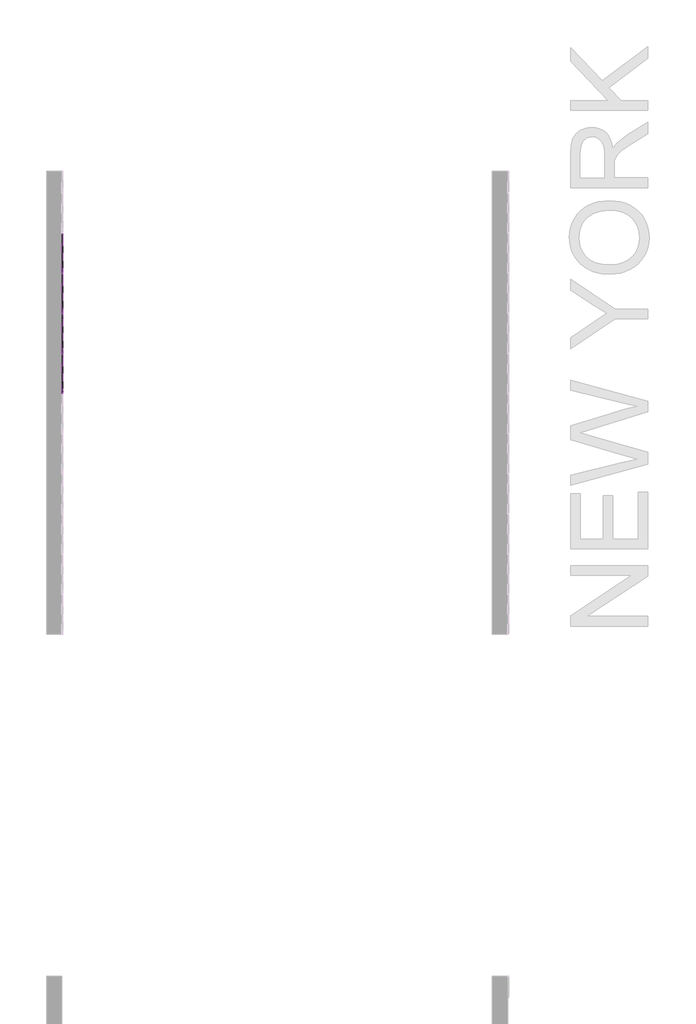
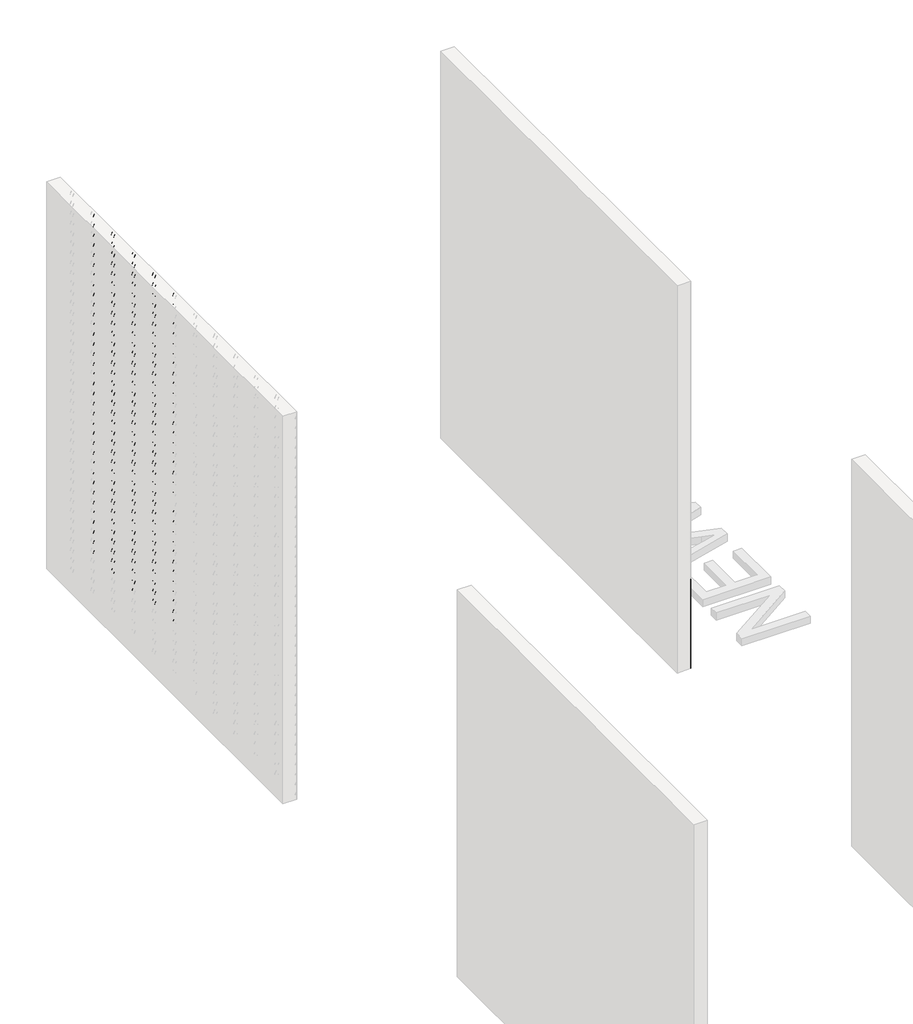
# One storey, part 20 of 45: 147 proxies.
"""IFC4 building model written with IfcOpenShell, lengths in millimetres."""

from ifc_helpers import new_model, si_unit, origin, place, context, project, spatial, transform, mapped, element, save
from components import generic_models_ab0f2c30, generic_models_acd2f2bb

model = new_model("IFC4")

# Units and contexts
model_context = context("Model", 3, world=origin())
ifc_project = project(units=[si_unit("LENGTHUNIT", "METRE", prefix="MILLI")], contexts=[model_context])

# Site, building, storey
site = spatial("IfcSite", under=ifc_project)
building = spatial("IfcBuilding", under=site)
storey = spatial("IfcBuildingStorey", under=building, Name="PORTOBELLO - SHOWROOM", Elevation=0.0)

# Proxies
placement = place(None, origin())
generic_models_shape = generic_models_ab0f2c30(model_context)
element("IfcBuildingElementProxy", 1, Name="PBSHOP - HORIZONTES NEW YORK 6,5X23 : NEW YORK", ObjectType="PBSHOP - HORIZONTES NEW YORK 6,5X23 : NEW YORK", at=placement, inside=storey, context=model_context, shape_type="MappedRepresentation", body=[
    mapped(generic_models_shape, transform((69111.8826867, 5798.0036359, 34.5), x_axis=(0.0, 0.0, 1.0), y_axis=(0.0, -1.0, 0.0), z_axis=(1.0, 0.0, 0.0))),
])
element("IfcBuildingElementProxy", 2, Name="PBSHOP - HORIZONTES NEW YORK 6,5X23 : NEW YORK", ObjectType="PBSHOP - HORIZONTES NEW YORK 6,5X23 : NEW YORK", at=placement, inside=storey, context=model_context, shape_type="MappedRepresentation", body=[
    mapped(generic_models_shape, transform((69111.8826867, 5798.0036359, 103.5), x_axis=(0.0, 0.0, 1.0), y_axis=(0.0, -1.0, 0.0), z_axis=(1.0, 0.0, 0.0))),
])
element("IfcBuildingElementProxy", 3, Name="PBSHOP - HORIZONTES NEW YORK 6,5X23 : NEW YORK", ObjectType="PBSHOP - HORIZONTES NEW YORK 6,5X23 : NEW YORK", at=placement, inside=storey, context=model_context, shape_type="MappedRepresentation", body=[
    mapped(generic_models_shape, transform((69111.8826867, 5798.0036359, 172.5), x_axis=(0.0, 0.0, 1.0), y_axis=(0.0, -1.0, 0.0), z_axis=(1.0, 0.0, 0.0))),
])
element("IfcBuildingElementProxy", 4, Name="PBSHOP - HORIZONTES NEW YORK 6,5X23 : NEW YORK", ObjectType="PBSHOP - HORIZONTES NEW YORK 6,5X23 : NEW YORK", at=placement, inside=storey, context=model_context, shape_type="MappedRepresentation", body=[
    mapped(generic_models_shape, transform((69111.8826867, 5798.0036359, 241.5), x_axis=(0.0, 0.0, 1.0), y_axis=(0.0, -1.0, 0.0), z_axis=(1.0, 0.0, 0.0))),
])
element("IfcBuildingElementProxy", 5, Name="PBSHOP - HORIZONTES NEW YORK 6,5X23 : NEW YORK", ObjectType="PBSHOP - HORIZONTES NEW YORK 6,5X23 : NEW YORK", at=placement, inside=storey, context=model_context, shape_type="MappedRepresentation", body=[
    mapped(generic_models_shape, transform((69111.8826867, 5798.0036359, 310.5), x_axis=(0.0, 0.0, 1.0), y_axis=(0.0, -1.0, 0.0), z_axis=(1.0, 0.0, 0.0))),
])
element("IfcBuildingElementProxy", 6, Name="PBSHOP - HORIZONTES NEW YORK 6,5X23 : NEW YORK", ObjectType="PBSHOP - HORIZONTES NEW YORK 6,5X23 : NEW YORK", at=placement, inside=storey, context=model_context, shape_type="MappedRepresentation", body=[
    mapped(generic_models_shape, transform((69111.8826867, 5798.0036359, 379.5), x_axis=(0.0, 0.0, 1.0), y_axis=(0.0, -1.0, 0.0), z_axis=(1.0, 0.0, 0.0))),
])
element("IfcBuildingElementProxy", 7, Name="PBSHOP - HORIZONTES NEW YORK 6,5X23 : NEW YORK", ObjectType="PBSHOP - HORIZONTES NEW YORK 6,5X23 : NEW YORK", at=placement, inside=storey, context=model_context, shape_type="MappedRepresentation", body=[
    mapped(generic_models_shape, transform((69111.8826867, 5798.0036359, 448.5), x_axis=(0.0, 0.0, 1.0), y_axis=(0.0, -1.0, 0.0), z_axis=(1.0, 0.0, 0.0))),
])
element("IfcBuildingElementProxy", 8, Name="PBSHOP - HORIZONTES NEW YORK 6,5X23 : NEW YORK", ObjectType="PBSHOP - HORIZONTES NEW YORK 6,5X23 : NEW YORK", at=placement, inside=storey, context=model_context, shape_type="MappedRepresentation", body=[
    mapped(generic_models_shape, transform((69111.8826867, 5798.0036359, 517.5), x_axis=(0.0, 0.0, 1.0), y_axis=(0.0, -1.0, 0.0), z_axis=(1.0, 0.0, 0.0))),
])
element("IfcBuildingElementProxy", 9, Name="PBSHOP - HORIZONTES NEW YORK 6,5X23 : NEW YORK", ObjectType="PBSHOP - HORIZONTES NEW YORK 6,5X23 : NEW YORK", at=placement, inside=storey, context=model_context, shape_type="MappedRepresentation", body=[
    mapped(generic_models_shape, transform((69111.8826867, 5798.0036359, 586.5), x_axis=(0.0, 0.0, 1.0), y_axis=(0.0, -1.0, 0.0), z_axis=(1.0, 0.0, 0.0))),
])
generic_models_2_shape = generic_models_acd2f2bb(model_context)
element("IfcBuildingElementProxy", 10, Name="PBSHOP - HORIZONTES NEW YORK 6,5X23 : NEW YORK DECO", ObjectType="PBSHOP - HORIZONTES NEW YORK 6,5X23 : NEW YORK DECO", at=placement, inside=storey, context=model_context, shape_type="MappedRepresentation", body=[
    mapped(generic_models_2_shape, transform((66511.8826867, 7670.0036359, 310.5), x_axis=(0.0, 0.0, 1.0), y_axis=(0.0, -1.0, 0.0), z_axis=(1.0, 0.0, 0.0))),
])
element("IfcBuildingElementProxy", 11, Name="PBSHOP - HORIZONTES NEW YORK 6,5X23 : NEW YORK DECO", ObjectType="PBSHOP - HORIZONTES NEW YORK 6,5X23 : NEW YORK DECO", at=placement, inside=storey, context=model_context, shape_type="MappedRepresentation", body=[
    mapped(generic_models_2_shape, transform((66511.8826867, 7904.0036359, 310.5), x_axis=(0.0, 0.0, 1.0), y_axis=(0.0, -1.0, 0.0), z_axis=(1.0, 0.0, 0.0))),
])
element("IfcBuildingElementProxy", 12, Name="PBSHOP - HORIZONTES NEW YORK 6,5X23 : NEW YORK DECO", ObjectType="PBSHOP - HORIZONTES NEW YORK 6,5X23 : NEW YORK DECO", at=placement, inside=storey, context=model_context, shape_type="MappedRepresentation", body=[
    mapped(generic_models_2_shape, transform((66511.8826867, 7202.0036359, 379.5), x_axis=(0.0, 0.0, 1.0), y_axis=(0.0, -1.0, 0.0), z_axis=(1.0, 0.0, 0.0))),
])
element("IfcBuildingElementProxy", 13, Name="PBSHOP - HORIZONTES NEW YORK 6,5X23 : NEW YORK DECO", ObjectType="PBSHOP - HORIZONTES NEW YORK 6,5X23 : NEW YORK DECO", at=placement, inside=storey, context=model_context, shape_type="MappedRepresentation", body=[
    mapped(generic_models_2_shape, transform((66511.8826867, 7436.0036359, 379.5), x_axis=(0.0, 0.0, 1.0), y_axis=(0.0, -1.0, 0.0), z_axis=(1.0, 0.0, 0.0))),
])
element("IfcBuildingElementProxy", 14, Name="PBSHOP - HORIZONTES NEW YORK 6,5X23 : NEW YORK DECO", ObjectType="PBSHOP - HORIZONTES NEW YORK 6,5X23 : NEW YORK DECO", at=placement, inside=storey, context=model_context, shape_type="MappedRepresentation", body=[
    mapped(generic_models_2_shape, transform((66511.8826867, 7670.0036359, 379.5), x_axis=(0.0, 0.0, 1.0), y_axis=(0.0, -1.0, 0.0), z_axis=(1.0, 0.0, 0.0))),
])
element("IfcBuildingElementProxy", 15, Name="PBSHOP - HORIZONTES NEW YORK 6,5X23 : NEW YORK DECO", ObjectType="PBSHOP - HORIZONTES NEW YORK 6,5X23 : NEW YORK DECO", at=placement, inside=storey, context=model_context, shape_type="MappedRepresentation", body=[
    mapped(generic_models_2_shape, transform((66511.8826867, 7904.0036359, 379.5), x_axis=(0.0, 0.0, 1.0), y_axis=(0.0, -1.0, 0.0), z_axis=(1.0, 0.0, 0.0))),
])
element("IfcBuildingElementProxy", 16, Name="PBSHOP - HORIZONTES NEW YORK 6,5X23 : NEW YORK DECO", ObjectType="PBSHOP - HORIZONTES NEW YORK 6,5X23 : NEW YORK DECO", at=placement, inside=storey, context=model_context, shape_type="MappedRepresentation", body=[
    mapped(generic_models_2_shape, transform((66511.8826867, 7202.0036359, 448.5), x_axis=(0.0, 0.0, 1.0), y_axis=(0.0, -1.0, 0.0), z_axis=(1.0, 0.0, 0.0))),
])
element("IfcBuildingElementProxy", 17, Name="PBSHOP - HORIZONTES NEW YORK 6,5X23 : NEW YORK DECO", ObjectType="PBSHOP - HORIZONTES NEW YORK 6,5X23 : NEW YORK DECO", at=placement, inside=storey, context=model_context, shape_type="MappedRepresentation", body=[
    mapped(generic_models_2_shape, transform((66511.8826867, 7436.0036359, 448.5), x_axis=(0.0, 0.0, 1.0), y_axis=(0.0, -1.0, 0.0), z_axis=(1.0, 0.0, 0.0))),
])
element("IfcBuildingElementProxy", 18, Name="PBSHOP - HORIZONTES NEW YORK 6,5X23 : NEW YORK DECO", ObjectType="PBSHOP - HORIZONTES NEW YORK 6,5X23 : NEW YORK DECO", at=placement, inside=storey, context=model_context, shape_type="MappedRepresentation", body=[
    mapped(generic_models_2_shape, transform((66511.8826867, 7670.0036359, 448.5), x_axis=(0.0, 0.0, 1.0), y_axis=(0.0, -1.0, 0.0), z_axis=(1.0, 0.0, 0.0))),
])
element("IfcBuildingElementProxy", 19, Name="PBSHOP - HORIZONTES NEW YORK 6,5X23 : NEW YORK DECO", ObjectType="PBSHOP - HORIZONTES NEW YORK 6,5X23 : NEW YORK DECO", at=placement, inside=storey, context=model_context, shape_type="MappedRepresentation", body=[
    mapped(generic_models_2_shape, transform((66511.8826867, 7904.0036359, 448.5), x_axis=(0.0, 0.0, 1.0), y_axis=(0.0, -1.0, 0.0), z_axis=(1.0, 0.0, 0.0))),
])
element("IfcBuildingElementProxy", 20, Name="PBSHOP - HORIZONTES NEW YORK 6,5X23 : NEW YORK DECO", ObjectType="PBSHOP - HORIZONTES NEW YORK 6,5X23 : NEW YORK DECO", at=placement, inside=storey, context=model_context, shape_type="MappedRepresentation", body=[
    mapped(generic_models_2_shape, transform((66511.8826867, 7202.0036359, 517.5), x_axis=(0.0, 0.0, 1.0), y_axis=(0.0, -1.0, 0.0), z_axis=(1.0, 0.0, 0.0))),
])
element("IfcBuildingElementProxy", 21, Name="PBSHOP - HORIZONTES NEW YORK 6,5X23 : NEW YORK DECO", ObjectType="PBSHOP - HORIZONTES NEW YORK 6,5X23 : NEW YORK DECO", at=placement, inside=storey, context=model_context, shape_type="MappedRepresentation", body=[
    mapped(generic_models_2_shape, transform((66511.8826867, 7436.0036359, 517.5), x_axis=(0.0, 0.0, 1.0), y_axis=(0.0, -1.0, 0.0), z_axis=(1.0, 0.0, 0.0))),
])
element("IfcBuildingElementProxy", 22, Name="PBSHOP - HORIZONTES NEW YORK 6,5X23 : NEW YORK DECO", ObjectType="PBSHOP - HORIZONTES NEW YORK 6,5X23 : NEW YORK DECO", at=placement, inside=storey, context=model_context, shape_type="MappedRepresentation", body=[
    mapped(generic_models_2_shape, transform((66511.8826867, 7670.0036359, 517.5), x_axis=(0.0, 0.0, 1.0), y_axis=(0.0, -1.0, 0.0), z_axis=(1.0, 0.0, 0.0))),
])
element("IfcBuildingElementProxy", 23, Name="PBSHOP - HORIZONTES NEW YORK 6,5X23 : NEW YORK DECO", ObjectType="PBSHOP - HORIZONTES NEW YORK 6,5X23 : NEW YORK DECO", at=placement, inside=storey, context=model_context, shape_type="MappedRepresentation", body=[
    mapped(generic_models_2_shape, transform((66511.8826867, 7904.0036359, 517.5), x_axis=(0.0, 0.0, 1.0), y_axis=(0.0, -1.0, 0.0), z_axis=(1.0, 0.0, 0.0))),
])
element("IfcBuildingElementProxy", 24, Name="PBSHOP - HORIZONTES NEW YORK 6,5X23 : NEW YORK DECO", ObjectType="PBSHOP - HORIZONTES NEW YORK 6,5X23 : NEW YORK DECO", at=placement, inside=storey, context=model_context, shape_type="MappedRepresentation", body=[
    mapped(generic_models_2_shape, transform((66511.8826867, 7202.0036359, 586.5), x_axis=(0.0, 0.0, 1.0), y_axis=(0.0, -1.0, 0.0), z_axis=(1.0, 0.0, 0.0))),
])
element("IfcBuildingElementProxy", 25, Name="PBSHOP - HORIZONTES NEW YORK 6,5X23 : NEW YORK DECO", ObjectType="PBSHOP - HORIZONTES NEW YORK 6,5X23 : NEW YORK DECO", at=placement, inside=storey, context=model_context, shape_type="MappedRepresentation", body=[
    mapped(generic_models_2_shape, transform((66511.8826867, 7436.0036359, 586.5), x_axis=(0.0, 0.0, 1.0), y_axis=(0.0, -1.0, 0.0), z_axis=(1.0, 0.0, 0.0))),
])
element("IfcBuildingElementProxy", 26, Name="PBSHOP - HORIZONTES NEW YORK 6,5X23 : NEW YORK DECO", ObjectType="PBSHOP - HORIZONTES NEW YORK 6,5X23 : NEW YORK DECO", at=placement, inside=storey, context=model_context, shape_type="MappedRepresentation", body=[
    mapped(generic_models_2_shape, transform((66511.8826867, 7670.0036359, 586.5), x_axis=(0.0, 0.0, 1.0), y_axis=(0.0, -1.0, 0.0), z_axis=(1.0, 0.0, 0.0))),
])
element("IfcBuildingElementProxy", 27, Name="PBSHOP - HORIZONTES NEW YORK 6,5X23 : NEW YORK DECO", ObjectType="PBSHOP - HORIZONTES NEW YORK 6,5X23 : NEW YORK DECO", at=placement, inside=storey, context=model_context, shape_type="MappedRepresentation", body=[
    mapped(generic_models_2_shape, transform((66511.8826867, 7904.0036359, 586.5), x_axis=(0.0, 0.0, 1.0), y_axis=(0.0, -1.0, 0.0), z_axis=(1.0, 0.0, 0.0))),
])
element("IfcBuildingElementProxy", 28, Name="PBSHOP - HORIZONTES NEW YORK 6,5X23 : NEW YORK DECO", ObjectType="PBSHOP - HORIZONTES NEW YORK 6,5X23 : NEW YORK DECO", at=placement, inside=storey, context=model_context, shape_type="MappedRepresentation", body=[
    mapped(generic_models_2_shape, transform((66511.8826867, 7202.0036359, 655.5), x_axis=(0.0, 0.0, 1.0), y_axis=(0.0, -1.0, 0.0), z_axis=(1.0, 0.0, 0.0))),
])
element("IfcBuildingElementProxy", 29, Name="PBSHOP - HORIZONTES NEW YORK 6,5X23 : NEW YORK DECO", ObjectType="PBSHOP - HORIZONTES NEW YORK 6,5X23 : NEW YORK DECO", at=placement, inside=storey, context=model_context, shape_type="MappedRepresentation", body=[
    mapped(generic_models_2_shape, transform((66511.8826867, 7436.0036359, 655.5), x_axis=(0.0, 0.0, 1.0), y_axis=(0.0, -1.0, 0.0), z_axis=(1.0, 0.0, 0.0))),
])
element("IfcBuildingElementProxy", 30, Name="PBSHOP - HORIZONTES NEW YORK 6,5X23 : NEW YORK DECO", ObjectType="PBSHOP - HORIZONTES NEW YORK 6,5X23 : NEW YORK DECO", at=placement, inside=storey, context=model_context, shape_type="MappedRepresentation", body=[
    mapped(generic_models_2_shape, transform((66511.8826867, 7670.0036359, 655.5), x_axis=(0.0, 0.0, 1.0), y_axis=(0.0, -1.0, 0.0), z_axis=(1.0, 0.0, 0.0))),
])
element("IfcBuildingElementProxy", 31, Name="PBSHOP - HORIZONTES NEW YORK 6,5X23 : NEW YORK DECO", ObjectType="PBSHOP - HORIZONTES NEW YORK 6,5X23 : NEW YORK DECO", at=placement, inside=storey, context=model_context, shape_type="MappedRepresentation", body=[
    mapped(generic_models_2_shape, transform((66511.8826867, 7904.0036359, 655.5), x_axis=(0.0, 0.0, 1.0), y_axis=(0.0, -1.0, 0.0), z_axis=(1.0, 0.0, 0.0))),
])
element("IfcBuildingElementProxy", 32, Name="PBSHOP - HORIZONTES NEW YORK 6,5X23 : NEW YORK DECO", ObjectType="PBSHOP - HORIZONTES NEW YORK 6,5X23 : NEW YORK DECO", at=placement, inside=storey, context=model_context, shape_type="MappedRepresentation", body=[
    mapped(generic_models_2_shape, transform((66511.8826867, 7202.0036359, 724.5), x_axis=(0.0, 0.0, 1.0), y_axis=(0.0, -1.0, 0.0), z_axis=(1.0, 0.0, 0.0))),
])
element("IfcBuildingElementProxy", 33, Name="PBSHOP - HORIZONTES NEW YORK 6,5X23 : NEW YORK DECO", ObjectType="PBSHOP - HORIZONTES NEW YORK 6,5X23 : NEW YORK DECO", at=placement, inside=storey, context=model_context, shape_type="MappedRepresentation", body=[
    mapped(generic_models_2_shape, transform((66511.8826867, 7436.0036359, 724.5), x_axis=(0.0, 0.0, 1.0), y_axis=(0.0, -1.0, 0.0), z_axis=(1.0, 0.0, 0.0))),
])
element("IfcBuildingElementProxy", 34, Name="PBSHOP - HORIZONTES NEW YORK 6,5X23 : NEW YORK DECO", ObjectType="PBSHOP - HORIZONTES NEW YORK 6,5X23 : NEW YORK DECO", at=placement, inside=storey, context=model_context, shape_type="MappedRepresentation", body=[
    mapped(generic_models_2_shape, transform((66511.8826867, 7670.0036359, 724.5), x_axis=(0.0, 0.0, 1.0), y_axis=(0.0, -1.0, 0.0), z_axis=(1.0, 0.0, 0.0))),
])
element("IfcBuildingElementProxy", 35, Name="PBSHOP - HORIZONTES NEW YORK 6,5X23 : NEW YORK DECO", ObjectType="PBSHOP - HORIZONTES NEW YORK 6,5X23 : NEW YORK DECO", at=placement, inside=storey, context=model_context, shape_type="MappedRepresentation", body=[
    mapped(generic_models_2_shape, transform((66511.8826867, 7904.0036359, 724.5), x_axis=(0.0, 0.0, 1.0), y_axis=(0.0, -1.0, 0.0), z_axis=(1.0, 0.0, 0.0))),
])
element("IfcBuildingElementProxy", 36, Name="PBSHOP - HORIZONTES NEW YORK 6,5X23 : NEW YORK DECO", ObjectType="PBSHOP - HORIZONTES NEW YORK 6,5X23 : NEW YORK DECO", at=placement, inside=storey, context=model_context, shape_type="MappedRepresentation", body=[
    mapped(generic_models_2_shape, transform((66511.8826867, 7202.0036359, 793.5), x_axis=(0.0, 0.0, 1.0), y_axis=(0.0, -1.0, 0.0), z_axis=(1.0, 0.0, 0.0))),
])
element("IfcBuildingElementProxy", 37, Name="PBSHOP - HORIZONTES NEW YORK 6,5X23 : NEW YORK DECO", ObjectType="PBSHOP - HORIZONTES NEW YORK 6,5X23 : NEW YORK DECO", at=placement, inside=storey, context=model_context, shape_type="MappedRepresentation", body=[
    mapped(generic_models_2_shape, transform((66511.8826867, 7436.0036359, 793.5), x_axis=(0.0, 0.0, 1.0), y_axis=(0.0, -1.0, 0.0), z_axis=(1.0, 0.0, 0.0))),
])
element("IfcBuildingElementProxy", 38, Name="PBSHOP - HORIZONTES NEW YORK 6,5X23 : NEW YORK DECO", ObjectType="PBSHOP - HORIZONTES NEW YORK 6,5X23 : NEW YORK DECO", at=placement, inside=storey, context=model_context, shape_type="MappedRepresentation", body=[
    mapped(generic_models_2_shape, transform((66511.8826867, 7670.0036359, 793.5), x_axis=(0.0, 0.0, 1.0), y_axis=(0.0, -1.0, 0.0), z_axis=(1.0, 0.0, 0.0))),
])
element("IfcBuildingElementProxy", 39, Name="PBSHOP - HORIZONTES NEW YORK 6,5X23 : NEW YORK DECO", ObjectType="PBSHOP - HORIZONTES NEW YORK 6,5X23 : NEW YORK DECO", at=placement, inside=storey, context=model_context, shape_type="MappedRepresentation", body=[
    mapped(generic_models_2_shape, transform((66511.8826867, 7904.0036359, 793.5), x_axis=(0.0, 0.0, 1.0), y_axis=(0.0, -1.0, 0.0), z_axis=(1.0, 0.0, 0.0))),
])
element("IfcBuildingElementProxy", 40, Name="PBSHOP - HORIZONTES NEW YORK 6,5X23 : NEW YORK DECO", ObjectType="PBSHOP - HORIZONTES NEW YORK 6,5X23 : NEW YORK DECO", at=placement, inside=storey, context=model_context, shape_type="MappedRepresentation", body=[
    mapped(generic_models_2_shape, transform((66511.8826867, 7202.0036359, 862.5), x_axis=(0.0, 0.0, 1.0), y_axis=(0.0, -1.0, 0.0), z_axis=(1.0, 0.0, 0.0))),
])
element("IfcBuildingElementProxy", 41, Name="PBSHOP - HORIZONTES NEW YORK 6,5X23 : NEW YORK DECO", ObjectType="PBSHOP - HORIZONTES NEW YORK 6,5X23 : NEW YORK DECO", at=placement, inside=storey, context=model_context, shape_type="MappedRepresentation", body=[
    mapped(generic_models_2_shape, transform((66511.8826867, 7436.0036359, 862.5), x_axis=(0.0, 0.0, 1.0), y_axis=(0.0, -1.0, 0.0), z_axis=(1.0, 0.0, 0.0))),
])
element("IfcBuildingElementProxy", 42, Name="PBSHOP - HORIZONTES NEW YORK 6,5X23 : NEW YORK DECO", ObjectType="PBSHOP - HORIZONTES NEW YORK 6,5X23 : NEW YORK DECO", at=placement, inside=storey, context=model_context, shape_type="MappedRepresentation", body=[
    mapped(generic_models_2_shape, transform((66511.8826867, 7670.0036359, 862.5), x_axis=(0.0, 0.0, 1.0), y_axis=(0.0, -1.0, 0.0), z_axis=(1.0, 0.0, 0.0))),
])
element("IfcBuildingElementProxy", 43, Name="PBSHOP - HORIZONTES NEW YORK 6,5X23 : NEW YORK DECO", ObjectType="PBSHOP - HORIZONTES NEW YORK 6,5X23 : NEW YORK DECO", at=placement, inside=storey, context=model_context, shape_type="MappedRepresentation", body=[
    mapped(generic_models_2_shape, transform((66511.8826867, 7904.0036359, 862.5), x_axis=(0.0, 0.0, 1.0), y_axis=(0.0, -1.0, 0.0), z_axis=(1.0, 0.0, 0.0))),
])
element("IfcBuildingElementProxy", 44, Name="PBSHOP - HORIZONTES NEW YORK 6,5X23 : NEW YORK DECO", ObjectType="PBSHOP - HORIZONTES NEW YORK 6,5X23 : NEW YORK DECO", at=placement, inside=storey, context=model_context, shape_type="MappedRepresentation", body=[
    mapped(generic_models_2_shape, transform((66511.8826867, 7202.0036359, 931.5), x_axis=(0.0, 0.0, 1.0), y_axis=(0.0, -1.0, 0.0), z_axis=(1.0, 0.0, 0.0))),
])
element("IfcBuildingElementProxy", 45, Name="PBSHOP - HORIZONTES NEW YORK 6,5X23 : NEW YORK DECO", ObjectType="PBSHOP - HORIZONTES NEW YORK 6,5X23 : NEW YORK DECO", at=placement, inside=storey, context=model_context, shape_type="MappedRepresentation", body=[
    mapped(generic_models_2_shape, transform((66511.8826867, 7436.0036359, 931.5), x_axis=(0.0, 0.0, 1.0), y_axis=(0.0, -1.0, 0.0), z_axis=(1.0, 0.0, 0.0))),
])
element("IfcBuildingElementProxy", 46, Name="PBSHOP - HORIZONTES NEW YORK 6,5X23 : NEW YORK DECO", ObjectType="PBSHOP - HORIZONTES NEW YORK 6,5X23 : NEW YORK DECO", at=placement, inside=storey, context=model_context, shape_type="MappedRepresentation", body=[
    mapped(generic_models_2_shape, transform((66511.8826867, 7670.0036359, 931.5), x_axis=(0.0, 0.0, 1.0), y_axis=(0.0, -1.0, 0.0), z_axis=(1.0, 0.0, 0.0))),
])
element("IfcBuildingElementProxy", 47, Name="PBSHOP - HORIZONTES NEW YORK 6,5X23 : NEW YORK DECO", ObjectType="PBSHOP - HORIZONTES NEW YORK 6,5X23 : NEW YORK DECO", at=placement, inside=storey, context=model_context, shape_type="MappedRepresentation", body=[
    mapped(generic_models_2_shape, transform((66511.8826867, 7904.0036359, 931.5), x_axis=(0.0, 0.0, 1.0), y_axis=(0.0, -1.0, 0.0), z_axis=(1.0, 0.0, 0.0))),
])
element("IfcBuildingElementProxy", 48, Name="PBSHOP - HORIZONTES NEW YORK 6,5X23 : NEW YORK DECO", ObjectType="PBSHOP - HORIZONTES NEW YORK 6,5X23 : NEW YORK DECO", at=placement, inside=storey, context=model_context, shape_type="MappedRepresentation", body=[
    mapped(generic_models_2_shape, transform((66511.8826867, 7202.0036359, 1000.5), x_axis=(0.0, 0.0, 1.0), y_axis=(0.0, -1.0, 0.0), z_axis=(1.0, 0.0, 0.0))),
])
element("IfcBuildingElementProxy", 49, Name="PBSHOP - HORIZONTES NEW YORK 6,5X23 : NEW YORK DECO", ObjectType="PBSHOP - HORIZONTES NEW YORK 6,5X23 : NEW YORK DECO", at=placement, inside=storey, context=model_context, shape_type="MappedRepresentation", body=[
    mapped(generic_models_2_shape, transform((66511.8826867, 7436.0036359, 1000.5), x_axis=(0.0, 0.0, 1.0), y_axis=(0.0, -1.0, 0.0), z_axis=(1.0, 0.0, 0.0))),
])
element("IfcBuildingElementProxy", 50, Name="PBSHOP - HORIZONTES NEW YORK 6,5X23 : NEW YORK DECO", ObjectType="PBSHOP - HORIZONTES NEW YORK 6,5X23 : NEW YORK DECO", at=placement, inside=storey, context=model_context, shape_type="MappedRepresentation", body=[
    mapped(generic_models_2_shape, transform((66511.8826867, 7670.0036359, 1000.5), x_axis=(0.0, 0.0, 1.0), y_axis=(0.0, -1.0, 0.0), z_axis=(1.0, 0.0, 0.0))),
])
element("IfcBuildingElementProxy", 51, Name="PBSHOP - HORIZONTES NEW YORK 6,5X23 : NEW YORK DECO", ObjectType="PBSHOP - HORIZONTES NEW YORK 6,5X23 : NEW YORK DECO", at=placement, inside=storey, context=model_context, shape_type="MappedRepresentation", body=[
    mapped(generic_models_2_shape, transform((66511.8826867, 7904.0036359, 1000.5), x_axis=(0.0, 0.0, 1.0), y_axis=(0.0, -1.0, 0.0), z_axis=(1.0, 0.0, 0.0))),
])
element("IfcBuildingElementProxy", 52, Name="PBSHOP - HORIZONTES NEW YORK 6,5X23 : NEW YORK DECO", ObjectType="PBSHOP - HORIZONTES NEW YORK 6,5X23 : NEW YORK DECO", at=placement, inside=storey, context=model_context, shape_type="MappedRepresentation", body=[
    mapped(generic_models_2_shape, transform((66511.8826867, 7202.0036359, 1069.5), x_axis=(0.0, 0.0, 1.0), y_axis=(0.0, -1.0, 0.0), z_axis=(1.0, 0.0, 0.0))),
])
element("IfcBuildingElementProxy", 53, Name="PBSHOP - HORIZONTES NEW YORK 6,5X23 : NEW YORK DECO", ObjectType="PBSHOP - HORIZONTES NEW YORK 6,5X23 : NEW YORK DECO", at=placement, inside=storey, context=model_context, shape_type="MappedRepresentation", body=[
    mapped(generic_models_2_shape, transform((66511.8826867, 7436.0036359, 1069.5), x_axis=(0.0, 0.0, 1.0), y_axis=(0.0, -1.0, 0.0), z_axis=(1.0, 0.0, 0.0))),
])
element("IfcBuildingElementProxy", 54, Name="PBSHOP - HORIZONTES NEW YORK 6,5X23 : NEW YORK DECO", ObjectType="PBSHOP - HORIZONTES NEW YORK 6,5X23 : NEW YORK DECO", at=placement, inside=storey, context=model_context, shape_type="MappedRepresentation", body=[
    mapped(generic_models_2_shape, transform((66511.8826867, 7670.0036359, 1069.5), x_axis=(0.0, 0.0, 1.0), y_axis=(0.0, -1.0, 0.0), z_axis=(1.0, 0.0, 0.0))),
])
element("IfcBuildingElementProxy", 55, Name="PBSHOP - HORIZONTES NEW YORK 6,5X23 : NEW YORK DECO", ObjectType="PBSHOP - HORIZONTES NEW YORK 6,5X23 : NEW YORK DECO", at=placement, inside=storey, context=model_context, shape_type="MappedRepresentation", body=[
    mapped(generic_models_2_shape, transform((66511.8826867, 7904.0036359, 1069.5), x_axis=(0.0, 0.0, 1.0), y_axis=(0.0, -1.0, 0.0), z_axis=(1.0, 0.0, 0.0))),
])
element("IfcBuildingElementProxy", 56, Name="PBSHOP - HORIZONTES NEW YORK 6,5X23 : NEW YORK DECO", ObjectType="PBSHOP - HORIZONTES NEW YORK 6,5X23 : NEW YORK DECO", at=placement, inside=storey, context=model_context, shape_type="MappedRepresentation", body=[
    mapped(generic_models_2_shape, transform((66511.8826867, 7202.0036359, 1138.5), x_axis=(0.0, 0.0, 1.0), y_axis=(0.0, -1.0, 0.0), z_axis=(1.0, 0.0, 0.0))),
])
element("IfcBuildingElementProxy", 57, Name="PBSHOP - HORIZONTES NEW YORK 6,5X23 : NEW YORK DECO", ObjectType="PBSHOP - HORIZONTES NEW YORK 6,5X23 : NEW YORK DECO", at=placement, inside=storey, context=model_context, shape_type="MappedRepresentation", body=[
    mapped(generic_models_2_shape, transform((66511.8826867, 7436.0036359, 1138.5), x_axis=(0.0, 0.0, 1.0), y_axis=(0.0, -1.0, 0.0), z_axis=(1.0, 0.0, 0.0))),
])
element("IfcBuildingElementProxy", 58, Name="PBSHOP - HORIZONTES NEW YORK 6,5X23 : NEW YORK DECO", ObjectType="PBSHOP - HORIZONTES NEW YORK 6,5X23 : NEW YORK DECO", at=placement, inside=storey, context=model_context, shape_type="MappedRepresentation", body=[
    mapped(generic_models_2_shape, transform((66511.8826867, 7670.0036359, 1138.5), x_axis=(0.0, 0.0, 1.0), y_axis=(0.0, -1.0, 0.0), z_axis=(1.0, 0.0, 0.0))),
])
element("IfcBuildingElementProxy", 59, Name="PBSHOP - HORIZONTES NEW YORK 6,5X23 : NEW YORK DECO", ObjectType="PBSHOP - HORIZONTES NEW YORK 6,5X23 : NEW YORK DECO", at=placement, inside=storey, context=model_context, shape_type="MappedRepresentation", body=[
    mapped(generic_models_2_shape, transform((66511.8826867, 7904.0036359, 1138.5), x_axis=(0.0, 0.0, 1.0), y_axis=(0.0, -1.0, 0.0), z_axis=(1.0, 0.0, 0.0))),
])
element("IfcBuildingElementProxy", 60, Name="PBSHOP - HORIZONTES NEW YORK 6,5X23 : NEW YORK DECO", ObjectType="PBSHOP - HORIZONTES NEW YORK 6,5X23 : NEW YORK DECO", at=placement, inside=storey, context=model_context, shape_type="MappedRepresentation", body=[
    mapped(generic_models_2_shape, transform((66511.8826867, 7202.0036359, 1207.5), x_axis=(0.0, 0.0, 1.0), y_axis=(0.0, -1.0, 0.0), z_axis=(1.0, 0.0, 0.0))),
])
element("IfcBuildingElementProxy", 61, Name="PBSHOP - HORIZONTES NEW YORK 6,5X23 : NEW YORK DECO", ObjectType="PBSHOP - HORIZONTES NEW YORK 6,5X23 : NEW YORK DECO", at=placement, inside=storey, context=model_context, shape_type="MappedRepresentation", body=[
    mapped(generic_models_2_shape, transform((66511.8826867, 7436.0036359, 1207.5), x_axis=(0.0, 0.0, 1.0), y_axis=(0.0, -1.0, 0.0), z_axis=(1.0, 0.0, 0.0))),
])
element("IfcBuildingElementProxy", 62, Name="PBSHOP - HORIZONTES NEW YORK 6,5X23 : NEW YORK DECO", ObjectType="PBSHOP - HORIZONTES NEW YORK 6,5X23 : NEW YORK DECO", at=placement, inside=storey, context=model_context, shape_type="MappedRepresentation", body=[
    mapped(generic_models_2_shape, transform((66511.8826867, 7670.0036359, 1207.5), x_axis=(0.0, 0.0, 1.0), y_axis=(0.0, -1.0, 0.0), z_axis=(1.0, 0.0, 0.0))),
])
element("IfcBuildingElementProxy", 63, Name="PBSHOP - HORIZONTES NEW YORK 6,5X23 : NEW YORK DECO", ObjectType="PBSHOP - HORIZONTES NEW YORK 6,5X23 : NEW YORK DECO", at=placement, inside=storey, context=model_context, shape_type="MappedRepresentation", body=[
    mapped(generic_models_2_shape, transform((66511.8826867, 7904.0036359, 1207.5), x_axis=(0.0, 0.0, 1.0), y_axis=(0.0, -1.0, 0.0), z_axis=(1.0, 0.0, 0.0))),
])
element("IfcBuildingElementProxy", 64, Name="PBSHOP - HORIZONTES NEW YORK 6,5X23 : NEW YORK DECO", ObjectType="PBSHOP - HORIZONTES NEW YORK 6,5X23 : NEW YORK DECO", at=placement, inside=storey, context=model_context, shape_type="MappedRepresentation", body=[
    mapped(generic_models_2_shape, transform((66511.8826867, 7202.0036359, 1276.5), x_axis=(0.0, 0.0, 1.0), y_axis=(0.0, -1.0, 0.0), z_axis=(1.0, 0.0, 0.0))),
])
element("IfcBuildingElementProxy", 65, Name="PBSHOP - HORIZONTES NEW YORK 6,5X23 : NEW YORK DECO", ObjectType="PBSHOP - HORIZONTES NEW YORK 6,5X23 : NEW YORK DECO", at=placement, inside=storey, context=model_context, shape_type="MappedRepresentation", body=[
    mapped(generic_models_2_shape, transform((66511.8826867, 7436.0036359, 1276.5), x_axis=(0.0, 0.0, 1.0), y_axis=(0.0, -1.0, 0.0), z_axis=(1.0, 0.0, 0.0))),
])
element("IfcBuildingElementProxy", 66, Name="PBSHOP - HORIZONTES NEW YORK 6,5X23 : NEW YORK DECO", ObjectType="PBSHOP - HORIZONTES NEW YORK 6,5X23 : NEW YORK DECO", at=placement, inside=storey, context=model_context, shape_type="MappedRepresentation", body=[
    mapped(generic_models_2_shape, transform((66511.8826867, 7670.0036359, 1276.5), x_axis=(0.0, 0.0, 1.0), y_axis=(0.0, -1.0, 0.0), z_axis=(1.0, 0.0, 0.0))),
])
element("IfcBuildingElementProxy", 67, Name="PBSHOP - HORIZONTES NEW YORK 6,5X23 : NEW YORK DECO", ObjectType="PBSHOP - HORIZONTES NEW YORK 6,5X23 : NEW YORK DECO", at=placement, inside=storey, context=model_context, shape_type="MappedRepresentation", body=[
    mapped(generic_models_2_shape, transform((66511.8826867, 7904.0036359, 1276.5), x_axis=(0.0, 0.0, 1.0), y_axis=(0.0, -1.0, 0.0), z_axis=(1.0, 0.0, 0.0))),
])
element("IfcBuildingElementProxy", 68, Name="PBSHOP - HORIZONTES NEW YORK 6,5X23 : NEW YORK DECO", ObjectType="PBSHOP - HORIZONTES NEW YORK 6,5X23 : NEW YORK DECO", at=placement, inside=storey, context=model_context, shape_type="MappedRepresentation", body=[
    mapped(generic_models_2_shape, transform((66511.8826867, 7202.0036359, 1345.5), x_axis=(0.0, 0.0, 1.0), y_axis=(0.0, -1.0, 0.0), z_axis=(1.0, 0.0, 0.0))),
])
element("IfcBuildingElementProxy", 69, Name="PBSHOP - HORIZONTES NEW YORK 6,5X23 : NEW YORK DECO", ObjectType="PBSHOP - HORIZONTES NEW YORK 6,5X23 : NEW YORK DECO", at=placement, inside=storey, context=model_context, shape_type="MappedRepresentation", body=[
    mapped(generic_models_2_shape, transform((66511.8826867, 7436.0036359, 1345.5), x_axis=(0.0, 0.0, 1.0), y_axis=(0.0, -1.0, 0.0), z_axis=(1.0, 0.0, 0.0))),
])
element("IfcBuildingElementProxy", 70, Name="PBSHOP - HORIZONTES NEW YORK 6,5X23 : NEW YORK DECO", ObjectType="PBSHOP - HORIZONTES NEW YORK 6,5X23 : NEW YORK DECO", at=placement, inside=storey, context=model_context, shape_type="MappedRepresentation", body=[
    mapped(generic_models_2_shape, transform((66511.8826867, 7670.0036359, 1345.5), x_axis=(0.0, 0.0, 1.0), y_axis=(0.0, -1.0, 0.0), z_axis=(1.0, 0.0, 0.0))),
])
element("IfcBuildingElementProxy", 71, Name="PBSHOP - HORIZONTES NEW YORK 6,5X23 : NEW YORK DECO", ObjectType="PBSHOP - HORIZONTES NEW YORK 6,5X23 : NEW YORK DECO", at=placement, inside=storey, context=model_context, shape_type="MappedRepresentation", body=[
    mapped(generic_models_2_shape, transform((66511.8826867, 7904.0036359, 1345.5), x_axis=(0.0, 0.0, 1.0), y_axis=(0.0, -1.0, 0.0), z_axis=(1.0, 0.0, 0.0))),
])
element("IfcBuildingElementProxy", 72, Name="PBSHOP - HORIZONTES NEW YORK 6,5X23 : NEW YORK DECO", ObjectType="PBSHOP - HORIZONTES NEW YORK 6,5X23 : NEW YORK DECO", at=placement, inside=storey, context=model_context, shape_type="MappedRepresentation", body=[
    mapped(generic_models_2_shape, transform((66511.8826867, 7202.0036359, 1414.5), x_axis=(0.0, 0.0, 1.0), y_axis=(0.0, -1.0, 0.0), z_axis=(1.0, 0.0, 0.0))),
])
element("IfcBuildingElementProxy", 73, Name="PBSHOP - HORIZONTES NEW YORK 6,5X23 : NEW YORK DECO", ObjectType="PBSHOP - HORIZONTES NEW YORK 6,5X23 : NEW YORK DECO", at=placement, inside=storey, context=model_context, shape_type="MappedRepresentation", body=[
    mapped(generic_models_2_shape, transform((66511.8826867, 7436.0036359, 1414.5), x_axis=(0.0, 0.0, 1.0), y_axis=(0.0, -1.0, 0.0), z_axis=(1.0, 0.0, 0.0))),
])
element("IfcBuildingElementProxy", 74, Name="PBSHOP - HORIZONTES NEW YORK 6,5X23 : NEW YORK DECO", ObjectType="PBSHOP - HORIZONTES NEW YORK 6,5X23 : NEW YORK DECO", at=placement, inside=storey, context=model_context, shape_type="MappedRepresentation", body=[
    mapped(generic_models_2_shape, transform((66511.8826867, 7670.0036359, 1414.5), x_axis=(0.0, 0.0, 1.0), y_axis=(0.0, -1.0, 0.0), z_axis=(1.0, 0.0, 0.0))),
])
element("IfcBuildingElementProxy", 75, Name="PBSHOP - HORIZONTES NEW YORK 6,5X23 : NEW YORK DECO", ObjectType="PBSHOP - HORIZONTES NEW YORK 6,5X23 : NEW YORK DECO", at=placement, inside=storey, context=model_context, shape_type="MappedRepresentation", body=[
    mapped(generic_models_2_shape, transform((66511.8826867, 7904.0036359, 1414.5), x_axis=(0.0, 0.0, 1.0), y_axis=(0.0, -1.0, 0.0), z_axis=(1.0, 0.0, 0.0))),
])
element("IfcBuildingElementProxy", 76, Name="PBSHOP - HORIZONTES NEW YORK 6,5X23 : NEW YORK DECO", ObjectType="PBSHOP - HORIZONTES NEW YORK 6,5X23 : NEW YORK DECO", at=placement, inside=storey, context=model_context, shape_type="MappedRepresentation", body=[
    mapped(generic_models_2_shape, transform((66511.8826867, 7202.0036359, 1483.5), x_axis=(0.0, 0.0, 1.0), y_axis=(0.0, -1.0, 0.0), z_axis=(1.0, 0.0, 0.0))),
])
element("IfcBuildingElementProxy", 77, Name="PBSHOP - HORIZONTES NEW YORK 6,5X23 : NEW YORK DECO", ObjectType="PBSHOP - HORIZONTES NEW YORK 6,5X23 : NEW YORK DECO", at=placement, inside=storey, context=model_context, shape_type="MappedRepresentation", body=[
    mapped(generic_models_2_shape, transform((66511.8826867, 7436.0036359, 1483.5), x_axis=(0.0, 0.0, 1.0), y_axis=(0.0, -1.0, 0.0), z_axis=(1.0, 0.0, 0.0))),
])
element("IfcBuildingElementProxy", 78, Name="PBSHOP - HORIZONTES NEW YORK 6,5X23 : NEW YORK DECO", ObjectType="PBSHOP - HORIZONTES NEW YORK 6,5X23 : NEW YORK DECO", at=placement, inside=storey, context=model_context, shape_type="MappedRepresentation", body=[
    mapped(generic_models_2_shape, transform((66511.8826867, 7670.0036359, 1483.5), x_axis=(0.0, 0.0, 1.0), y_axis=(0.0, -1.0, 0.0), z_axis=(1.0, 0.0, 0.0))),
])
element("IfcBuildingElementProxy", 79, Name="PBSHOP - HORIZONTES NEW YORK 6,5X23 : NEW YORK DECO", ObjectType="PBSHOP - HORIZONTES NEW YORK 6,5X23 : NEW YORK DECO", at=placement, inside=storey, context=model_context, shape_type="MappedRepresentation", body=[
    mapped(generic_models_2_shape, transform((66511.8826867, 7904.0036359, 1483.5), x_axis=(0.0, 0.0, 1.0), y_axis=(0.0, -1.0, 0.0), z_axis=(1.0, 0.0, 0.0))),
])
element("IfcBuildingElementProxy", 80, Name="PBSHOP - HORIZONTES NEW YORK 6,5X23 : NEW YORK DECO", ObjectType="PBSHOP - HORIZONTES NEW YORK 6,5X23 : NEW YORK DECO", at=placement, inside=storey, context=model_context, shape_type="MappedRepresentation", body=[
    mapped(generic_models_2_shape, transform((66511.8826867, 7202.0036359, 1552.5), x_axis=(0.0, 0.0, 1.0), y_axis=(0.0, -1.0, 0.0), z_axis=(1.0, 0.0, 0.0))),
])
element("IfcBuildingElementProxy", 81, Name="PBSHOP - HORIZONTES NEW YORK 6,5X23 : NEW YORK DECO", ObjectType="PBSHOP - HORIZONTES NEW YORK 6,5X23 : NEW YORK DECO", at=placement, inside=storey, context=model_context, shape_type="MappedRepresentation", body=[
    mapped(generic_models_2_shape, transform((66511.8826867, 7436.0036359, 1552.5), x_axis=(0.0, 0.0, 1.0), y_axis=(0.0, -1.0, 0.0), z_axis=(1.0, 0.0, 0.0))),
])
element("IfcBuildingElementProxy", 82, Name="PBSHOP - HORIZONTES NEW YORK 6,5X23 : NEW YORK DECO", ObjectType="PBSHOP - HORIZONTES NEW YORK 6,5X23 : NEW YORK DECO", at=placement, inside=storey, context=model_context, shape_type="MappedRepresentation", body=[
    mapped(generic_models_2_shape, transform((66511.8826867, 7670.0036359, 1552.5), x_axis=(0.0, 0.0, 1.0), y_axis=(0.0, -1.0, 0.0), z_axis=(1.0, 0.0, 0.0))),
])
element("IfcBuildingElementProxy", 83, Name="PBSHOP - HORIZONTES NEW YORK 6,5X23 : NEW YORK DECO", ObjectType="PBSHOP - HORIZONTES NEW YORK 6,5X23 : NEW YORK DECO", at=placement, inside=storey, context=model_context, shape_type="MappedRepresentation", body=[
    mapped(generic_models_2_shape, transform((66511.8826867, 7904.0036359, 1552.5), x_axis=(0.0, 0.0, 1.0), y_axis=(0.0, -1.0, 0.0), z_axis=(1.0, 0.0, 0.0))),
])
element("IfcBuildingElementProxy", 84, Name="PBSHOP - HORIZONTES NEW YORK 6,5X23 : NEW YORK DECO", ObjectType="PBSHOP - HORIZONTES NEW YORK 6,5X23 : NEW YORK DECO", at=placement, inside=storey, context=model_context, shape_type="MappedRepresentation", body=[
    mapped(generic_models_2_shape, transform((66511.8826867, 7202.0036359, 1621.5), x_axis=(0.0, 0.0, 1.0), y_axis=(0.0, -1.0, 0.0), z_axis=(1.0, 0.0, 0.0))),
])
element("IfcBuildingElementProxy", 85, Name="PBSHOP - HORIZONTES NEW YORK 6,5X23 : NEW YORK DECO", ObjectType="PBSHOP - HORIZONTES NEW YORK 6,5X23 : NEW YORK DECO", at=placement, inside=storey, context=model_context, shape_type="MappedRepresentation", body=[
    mapped(generic_models_2_shape, transform((66511.8826867, 7436.0036359, 1621.5), x_axis=(0.0, 0.0, 1.0), y_axis=(0.0, -1.0, 0.0), z_axis=(1.0, 0.0, 0.0))),
])
element("IfcBuildingElementProxy", 86, Name="PBSHOP - HORIZONTES NEW YORK 6,5X23 : NEW YORK DECO", ObjectType="PBSHOP - HORIZONTES NEW YORK 6,5X23 : NEW YORK DECO", at=placement, inside=storey, context=model_context, shape_type="MappedRepresentation", body=[
    mapped(generic_models_2_shape, transform((66511.8826867, 7670.0036359, 1621.5), x_axis=(0.0, 0.0, 1.0), y_axis=(0.0, -1.0, 0.0), z_axis=(1.0, 0.0, 0.0))),
])
element("IfcBuildingElementProxy", 87, Name="PBSHOP - HORIZONTES NEW YORK 6,5X23 : NEW YORK DECO", ObjectType="PBSHOP - HORIZONTES NEW YORK 6,5X23 : NEW YORK DECO", at=placement, inside=storey, context=model_context, shape_type="MappedRepresentation", body=[
    mapped(generic_models_2_shape, transform((66511.8826867, 7904.0036359, 1621.5), x_axis=(0.0, 0.0, 1.0), y_axis=(0.0, -1.0, 0.0), z_axis=(1.0, 0.0, 0.0))),
])
element("IfcBuildingElementProxy", 88, Name="PBSHOP - HORIZONTES NEW YORK 6,5X23 : NEW YORK DECO", ObjectType="PBSHOP - HORIZONTES NEW YORK 6,5X23 : NEW YORK DECO", at=placement, inside=storey, context=model_context, shape_type="MappedRepresentation", body=[
    mapped(generic_models_2_shape, transform((66511.8826867, 7202.0036359, 1690.5), x_axis=(0.0, 0.0, 1.0), y_axis=(0.0, -1.0, 0.0), z_axis=(1.0, 0.0, 0.0))),
])
element("IfcBuildingElementProxy", 89, Name="PBSHOP - HORIZONTES NEW YORK 6,5X23 : NEW YORK DECO", ObjectType="PBSHOP - HORIZONTES NEW YORK 6,5X23 : NEW YORK DECO", at=placement, inside=storey, context=model_context, shape_type="MappedRepresentation", body=[
    mapped(generic_models_2_shape, transform((66511.8826867, 7436.0036359, 1690.5), x_axis=(0.0, 0.0, 1.0), y_axis=(0.0, -1.0, 0.0), z_axis=(1.0, 0.0, 0.0))),
])
element("IfcBuildingElementProxy", 90, Name="PBSHOP - HORIZONTES NEW YORK 6,5X23 : NEW YORK DECO", ObjectType="PBSHOP - HORIZONTES NEW YORK 6,5X23 : NEW YORK DECO", at=placement, inside=storey, context=model_context, shape_type="MappedRepresentation", body=[
    mapped(generic_models_2_shape, transform((66511.8826867, 7670.0036359, 1690.5), x_axis=(0.0, 0.0, 1.0), y_axis=(0.0, -1.0, 0.0), z_axis=(1.0, 0.0, 0.0))),
])
element("IfcBuildingElementProxy", 91, Name="PBSHOP - HORIZONTES NEW YORK 6,5X23 : NEW YORK DECO", ObjectType="PBSHOP - HORIZONTES NEW YORK 6,5X23 : NEW YORK DECO", at=placement, inside=storey, context=model_context, shape_type="MappedRepresentation", body=[
    mapped(generic_models_2_shape, transform((66511.8826867, 7904.0036359, 1690.5), x_axis=(0.0, 0.0, 1.0), y_axis=(0.0, -1.0, 0.0), z_axis=(1.0, 0.0, 0.0))),
])
element("IfcBuildingElementProxy", 92, Name="PBSHOP - HORIZONTES NEW YORK 6,5X23 : NEW YORK DECO", ObjectType="PBSHOP - HORIZONTES NEW YORK 6,5X23 : NEW YORK DECO", at=placement, inside=storey, context=model_context, shape_type="MappedRepresentation", body=[
    mapped(generic_models_2_shape, transform((66511.8826867, 7202.0036359, 1759.5), x_axis=(0.0, 0.0, 1.0), y_axis=(0.0, -1.0, 0.0), z_axis=(1.0, 0.0, 0.0))),
])
element("IfcBuildingElementProxy", 93, Name="PBSHOP - HORIZONTES NEW YORK 6,5X23 : NEW YORK DECO", ObjectType="PBSHOP - HORIZONTES NEW YORK 6,5X23 : NEW YORK DECO", at=placement, inside=storey, context=model_context, shape_type="MappedRepresentation", body=[
    mapped(generic_models_2_shape, transform((66511.8826867, 7436.0036359, 1759.5), x_axis=(0.0, 0.0, 1.0), y_axis=(0.0, -1.0, 0.0), z_axis=(1.0, 0.0, 0.0))),
])
element("IfcBuildingElementProxy", 94, Name="PBSHOP - HORIZONTES NEW YORK 6,5X23 : NEW YORK DECO", ObjectType="PBSHOP - HORIZONTES NEW YORK 6,5X23 : NEW YORK DECO", at=placement, inside=storey, context=model_context, shape_type="MappedRepresentation", body=[
    mapped(generic_models_2_shape, transform((66511.8826867, 7670.0036359, 1759.5), x_axis=(0.0, 0.0, 1.0), y_axis=(0.0, -1.0, 0.0), z_axis=(1.0, 0.0, 0.0))),
])
element("IfcBuildingElementProxy", 95, Name="PBSHOP - HORIZONTES NEW YORK 6,5X23 : NEW YORK DECO", ObjectType="PBSHOP - HORIZONTES NEW YORK 6,5X23 : NEW YORK DECO", at=placement, inside=storey, context=model_context, shape_type="MappedRepresentation", body=[
    mapped(generic_models_2_shape, transform((66511.8826867, 7904.0036359, 1759.5), x_axis=(0.0, 0.0, 1.0), y_axis=(0.0, -1.0, 0.0), z_axis=(1.0, 0.0, 0.0))),
])
element("IfcBuildingElementProxy", 96, Name="PBSHOP - HORIZONTES NEW YORK 6,5X23 : NEW YORK DECO", ObjectType="PBSHOP - HORIZONTES NEW YORK 6,5X23 : NEW YORK DECO", at=placement, inside=storey, context=model_context, shape_type="MappedRepresentation", body=[
    mapped(generic_models_2_shape, transform((66511.8826867, 7202.0036359, 1828.5), x_axis=(0.0, 0.0, 1.0), y_axis=(0.0, -1.0, 0.0), z_axis=(1.0, 0.0, 0.0))),
])
element("IfcBuildingElementProxy", 97, Name="PBSHOP - HORIZONTES NEW YORK 6,5X23 : NEW YORK DECO", ObjectType="PBSHOP - HORIZONTES NEW YORK 6,5X23 : NEW YORK DECO", at=placement, inside=storey, context=model_context, shape_type="MappedRepresentation", body=[
    mapped(generic_models_2_shape, transform((66511.8826867, 7436.0036359, 1828.5), x_axis=(0.0, 0.0, 1.0), y_axis=(0.0, -1.0, 0.0), z_axis=(1.0, 0.0, 0.0))),
])
element("IfcBuildingElementProxy", 98, Name="PBSHOP - HORIZONTES NEW YORK 6,5X23 : NEW YORK DECO", ObjectType="PBSHOP - HORIZONTES NEW YORK 6,5X23 : NEW YORK DECO", at=placement, inside=storey, context=model_context, shape_type="MappedRepresentation", body=[
    mapped(generic_models_2_shape, transform((66511.8826867, 7670.0036359, 1828.5), x_axis=(0.0, 0.0, 1.0), y_axis=(0.0, -1.0, 0.0), z_axis=(1.0, 0.0, 0.0))),
])
element("IfcBuildingElementProxy", 99, Name="PBSHOP - HORIZONTES NEW YORK 6,5X23 : NEW YORK DECO", ObjectType="PBSHOP - HORIZONTES NEW YORK 6,5X23 : NEW YORK DECO", at=placement, inside=storey, context=model_context, shape_type="MappedRepresentation", body=[
    mapped(generic_models_2_shape, transform((66511.8826867, 7904.0036359, 1828.5), x_axis=(0.0, 0.0, 1.0), y_axis=(0.0, -1.0, 0.0), z_axis=(1.0, 0.0, 0.0))),
])
element("IfcBuildingElementProxy", 100, Name="PBSHOP - HORIZONTES NEW YORK 6,5X23 : NEW YORK DECO", ObjectType="PBSHOP - HORIZONTES NEW YORK 6,5X23 : NEW YORK DECO", at=placement, inside=storey, context=model_context, shape_type="MappedRepresentation", body=[
    mapped(generic_models_2_shape, transform((66511.8826867, 7202.0036359, 1897.5), x_axis=(0.0, 0.0, 1.0), y_axis=(0.0, -1.0, 0.0), z_axis=(1.0, 0.0, 0.0))),
])
element("IfcBuildingElementProxy", 101, Name="PBSHOP - HORIZONTES NEW YORK 6,5X23 : NEW YORK DECO", ObjectType="PBSHOP - HORIZONTES NEW YORK 6,5X23 : NEW YORK DECO", at=placement, inside=storey, context=model_context, shape_type="MappedRepresentation", body=[
    mapped(generic_models_2_shape, transform((66511.8826867, 7436.0036359, 1897.5), x_axis=(0.0, 0.0, 1.0), y_axis=(0.0, -1.0, 0.0), z_axis=(1.0, 0.0, 0.0))),
])
element("IfcBuildingElementProxy", 102, Name="PBSHOP - HORIZONTES NEW YORK 6,5X23 : NEW YORK DECO", ObjectType="PBSHOP - HORIZONTES NEW YORK 6,5X23 : NEW YORK DECO", at=placement, inside=storey, context=model_context, shape_type="MappedRepresentation", body=[
    mapped(generic_models_2_shape, transform((66511.8826867, 7670.0036359, 1897.5), x_axis=(0.0, 0.0, 1.0), y_axis=(0.0, -1.0, 0.0), z_axis=(1.0, 0.0, 0.0))),
])
element("IfcBuildingElementProxy", 103, Name="PBSHOP - HORIZONTES NEW YORK 6,5X23 : NEW YORK DECO", ObjectType="PBSHOP - HORIZONTES NEW YORK 6,5X23 : NEW YORK DECO", at=placement, inside=storey, context=model_context, shape_type="MappedRepresentation", body=[
    mapped(generic_models_2_shape, transform((66511.8826867, 7904.0036359, 1897.5), x_axis=(0.0, 0.0, 1.0), y_axis=(0.0, -1.0, 0.0), z_axis=(1.0, 0.0, 0.0))),
])
element("IfcBuildingElementProxy", 104, Name="PBSHOP - HORIZONTES NEW YORK 6,5X23 : NEW YORK DECO", ObjectType="PBSHOP - HORIZONTES NEW YORK 6,5X23 : NEW YORK DECO", at=placement, inside=storey, context=model_context, shape_type="MappedRepresentation", body=[
    mapped(generic_models_2_shape, transform((66511.8826867, 7202.0036359, 1966.5), x_axis=(0.0, 0.0, 1.0), y_axis=(0.0, -1.0, 0.0), z_axis=(1.0, 0.0, 0.0))),
])
element("IfcBuildingElementProxy", 105, Name="PBSHOP - HORIZONTES NEW YORK 6,5X23 : NEW YORK DECO", ObjectType="PBSHOP - HORIZONTES NEW YORK 6,5X23 : NEW YORK DECO", at=placement, inside=storey, context=model_context, shape_type="MappedRepresentation", body=[
    mapped(generic_models_2_shape, transform((66511.8826867, 7436.0036359, 1966.5), x_axis=(0.0, 0.0, 1.0), y_axis=(0.0, -1.0, 0.0), z_axis=(1.0, 0.0, 0.0))),
])
element("IfcBuildingElementProxy", 106, Name="PBSHOP - HORIZONTES NEW YORK 6,5X23 : NEW YORK DECO", ObjectType="PBSHOP - HORIZONTES NEW YORK 6,5X23 : NEW YORK DECO", at=placement, inside=storey, context=model_context, shape_type="MappedRepresentation", body=[
    mapped(generic_models_2_shape, transform((66511.8826867, 7670.0036359, 1966.5), x_axis=(0.0, 0.0, 1.0), y_axis=(0.0, -1.0, 0.0), z_axis=(1.0, 0.0, 0.0))),
])
element("IfcBuildingElementProxy", 107, Name="PBSHOP - HORIZONTES NEW YORK 6,5X23 : NEW YORK DECO", ObjectType="PBSHOP - HORIZONTES NEW YORK 6,5X23 : NEW YORK DECO", at=placement, inside=storey, context=model_context, shape_type="MappedRepresentation", body=[
    mapped(generic_models_2_shape, transform((66511.8826867, 7904.0036359, 1966.5), x_axis=(0.0, 0.0, 1.0), y_axis=(0.0, -1.0, 0.0), z_axis=(1.0, 0.0, 0.0))),
])
element("IfcBuildingElementProxy", 108, Name="PBSHOP - HORIZONTES NEW YORK 6,5X23 : NEW YORK DECO", ObjectType="PBSHOP - HORIZONTES NEW YORK 6,5X23 : NEW YORK DECO", at=placement, inside=storey, context=model_context, shape_type="MappedRepresentation", body=[
    mapped(generic_models_2_shape, transform((66511.8826867, 7202.0036359, 2035.5), x_axis=(0.0, 0.0, 1.0), y_axis=(0.0, -1.0, 0.0), z_axis=(1.0, 0.0, 0.0))),
])
element("IfcBuildingElementProxy", 109, Name="PBSHOP - HORIZONTES NEW YORK 6,5X23 : NEW YORK DECO", ObjectType="PBSHOP - HORIZONTES NEW YORK 6,5X23 : NEW YORK DECO", at=placement, inside=storey, context=model_context, shape_type="MappedRepresentation", body=[
    mapped(generic_models_2_shape, transform((66511.8826867, 7436.0036359, 2035.5), x_axis=(0.0, 0.0, 1.0), y_axis=(0.0, -1.0, 0.0), z_axis=(1.0, 0.0, 0.0))),
])
element("IfcBuildingElementProxy", 110, Name="PBSHOP - HORIZONTES NEW YORK 6,5X23 : NEW YORK DECO", ObjectType="PBSHOP - HORIZONTES NEW YORK 6,5X23 : NEW YORK DECO", at=placement, inside=storey, context=model_context, shape_type="MappedRepresentation", body=[
    mapped(generic_models_2_shape, transform((66511.8826867, 7670.0036359, 2035.5), x_axis=(0.0, 0.0, 1.0), y_axis=(0.0, -1.0, 0.0), z_axis=(1.0, 0.0, 0.0))),
])
element("IfcBuildingElementProxy", 111, Name="PBSHOP - HORIZONTES NEW YORK 6,5X23 : NEW YORK DECO", ObjectType="PBSHOP - HORIZONTES NEW YORK 6,5X23 : NEW YORK DECO", at=placement, inside=storey, context=model_context, shape_type="MappedRepresentation", body=[
    mapped(generic_models_2_shape, transform((66511.8826867, 7904.0036359, 2035.5), x_axis=(0.0, 0.0, 1.0), y_axis=(0.0, -1.0, 0.0), z_axis=(1.0, 0.0, 0.0))),
])
element("IfcBuildingElementProxy", 112, Name="PBSHOP - HORIZONTES NEW YORK 6,5X23 : NEW YORK DECO", ObjectType="PBSHOP - HORIZONTES NEW YORK 6,5X23 : NEW YORK DECO", at=placement, inside=storey, context=model_context, shape_type="MappedRepresentation", body=[
    mapped(generic_models_2_shape, transform((66511.8826867, 7202.0036359, 2104.5), x_axis=(0.0, 0.0, 1.0), y_axis=(0.0, -1.0, 0.0), z_axis=(1.0, 0.0, 0.0))),
])
element("IfcBuildingElementProxy", 113, Name="PBSHOP - HORIZONTES NEW YORK 6,5X23 : NEW YORK DECO", ObjectType="PBSHOP - HORIZONTES NEW YORK 6,5X23 : NEW YORK DECO", at=placement, inside=storey, context=model_context, shape_type="MappedRepresentation", body=[
    mapped(generic_models_2_shape, transform((66511.8826867, 7436.0036359, 2104.5), x_axis=(0.0, 0.0, 1.0), y_axis=(0.0, -1.0, 0.0), z_axis=(1.0, 0.0, 0.0))),
])
element("IfcBuildingElementProxy", 114, Name="PBSHOP - HORIZONTES NEW YORK 6,5X23 : NEW YORK DECO", ObjectType="PBSHOP - HORIZONTES NEW YORK 6,5X23 : NEW YORK DECO", at=placement, inside=storey, context=model_context, shape_type="MappedRepresentation", body=[
    mapped(generic_models_2_shape, transform((66511.8826867, 7670.0036359, 2104.5), x_axis=(0.0, 0.0, 1.0), y_axis=(0.0, -1.0, 0.0), z_axis=(1.0, 0.0, 0.0))),
])
element("IfcBuildingElementProxy", 115, Name="PBSHOP - HORIZONTES NEW YORK 6,5X23 : NEW YORK DECO", ObjectType="PBSHOP - HORIZONTES NEW YORK 6,5X23 : NEW YORK DECO", at=placement, inside=storey, context=model_context, shape_type="MappedRepresentation", body=[
    mapped(generic_models_2_shape, transform((66511.8826867, 7904.0036359, 2104.5), x_axis=(0.0, 0.0, 1.0), y_axis=(0.0, -1.0, 0.0), z_axis=(1.0, 0.0, 0.0))),
])
element("IfcBuildingElementProxy", 116, Name="PBSHOP - HORIZONTES NEW YORK 6,5X23 : NEW YORK DECO", ObjectType="PBSHOP - HORIZONTES NEW YORK 6,5X23 : NEW YORK DECO", at=placement, inside=storey, context=model_context, shape_type="MappedRepresentation", body=[
    mapped(generic_models_2_shape, transform((66511.8826867, 7202.0036359, 2173.5), x_axis=(0.0, 0.0, 1.0), y_axis=(0.0, -1.0, 0.0), z_axis=(1.0, 0.0, 0.0))),
])
element("IfcBuildingElementProxy", 117, Name="PBSHOP - HORIZONTES NEW YORK 6,5X23 : NEW YORK DECO", ObjectType="PBSHOP - HORIZONTES NEW YORK 6,5X23 : NEW YORK DECO", at=placement, inside=storey, context=model_context, shape_type="MappedRepresentation", body=[
    mapped(generic_models_2_shape, transform((66511.8826867, 7436.0036359, 2173.5), x_axis=(0.0, 0.0, 1.0), y_axis=(0.0, -1.0, 0.0), z_axis=(1.0, 0.0, 0.0))),
])
element("IfcBuildingElementProxy", 118, Name="PBSHOP - HORIZONTES NEW YORK 6,5X23 : NEW YORK DECO", ObjectType="PBSHOP - HORIZONTES NEW YORK 6,5X23 : NEW YORK DECO", at=placement, inside=storey, context=model_context, shape_type="MappedRepresentation", body=[
    mapped(generic_models_2_shape, transform((66511.8826867, 7670.0036359, 2173.5), x_axis=(0.0, 0.0, 1.0), y_axis=(0.0, -1.0, 0.0), z_axis=(1.0, 0.0, 0.0))),
])
element("IfcBuildingElementProxy", 119, Name="PBSHOP - HORIZONTES NEW YORK 6,5X23 : NEW YORK DECO", ObjectType="PBSHOP - HORIZONTES NEW YORK 6,5X23 : NEW YORK DECO", at=placement, inside=storey, context=model_context, shape_type="MappedRepresentation", body=[
    mapped(generic_models_2_shape, transform((66511.8826867, 7904.0036359, 2173.5), x_axis=(0.0, 0.0, 1.0), y_axis=(0.0, -1.0, 0.0), z_axis=(1.0, 0.0, 0.0))),
])
element("IfcBuildingElementProxy", 120, Name="PBSHOP - HORIZONTES NEW YORK 6,5X23 : NEW YORK DECO", ObjectType="PBSHOP - HORIZONTES NEW YORK 6,5X23 : NEW YORK DECO", at=placement, inside=storey, context=model_context, shape_type="MappedRepresentation", body=[
    mapped(generic_models_2_shape, transform((66511.8826867, 7202.0036359, 2242.5), x_axis=(0.0, 0.0, 1.0), y_axis=(0.0, -1.0, 0.0), z_axis=(1.0, 0.0, 0.0))),
])
element("IfcBuildingElementProxy", 121, Name="PBSHOP - HORIZONTES NEW YORK 6,5X23 : NEW YORK DECO", ObjectType="PBSHOP - HORIZONTES NEW YORK 6,5X23 : NEW YORK DECO", at=placement, inside=storey, context=model_context, shape_type="MappedRepresentation", body=[
    mapped(generic_models_2_shape, transform((66511.8826867, 7436.0036359, 2242.5), x_axis=(0.0, 0.0, 1.0), y_axis=(0.0, -1.0, 0.0), z_axis=(1.0, 0.0, 0.0))),
])
element("IfcBuildingElementProxy", 122, Name="PBSHOP - HORIZONTES NEW YORK 6,5X23 : NEW YORK DECO", ObjectType="PBSHOP - HORIZONTES NEW YORK 6,5X23 : NEW YORK DECO", at=placement, inside=storey, context=model_context, shape_type="MappedRepresentation", body=[
    mapped(generic_models_2_shape, transform((66511.8826867, 7670.0036359, 2242.5), x_axis=(0.0, 0.0, 1.0), y_axis=(0.0, -1.0, 0.0), z_axis=(1.0, 0.0, 0.0))),
])
element("IfcBuildingElementProxy", 123, Name="PBSHOP - HORIZONTES NEW YORK 6,5X23 : NEW YORK DECO", ObjectType="PBSHOP - HORIZONTES NEW YORK 6,5X23 : NEW YORK DECO", at=placement, inside=storey, context=model_context, shape_type="MappedRepresentation", body=[
    mapped(generic_models_2_shape, transform((66511.8826867, 7904.0036359, 2242.5), x_axis=(0.0, 0.0, 1.0), y_axis=(0.0, -1.0, 0.0), z_axis=(1.0, 0.0, 0.0))),
])
element("IfcBuildingElementProxy", 124, Name="PBSHOP - HORIZONTES NEW YORK 6,5X23 : NEW YORK DECO", ObjectType="PBSHOP - HORIZONTES NEW YORK 6,5X23 : NEW YORK DECO", at=placement, inside=storey, context=model_context, shape_type="MappedRepresentation", body=[
    mapped(generic_models_2_shape, transform((66511.8826867, 7202.0036359, 2311.5), x_axis=(0.0, 0.0, 1.0), y_axis=(0.0, -1.0, 0.0), z_axis=(1.0, 0.0, 0.0))),
])
element("IfcBuildingElementProxy", 125, Name="PBSHOP - HORIZONTES NEW YORK 6,5X23 : NEW YORK DECO", ObjectType="PBSHOP - HORIZONTES NEW YORK 6,5X23 : NEW YORK DECO", at=placement, inside=storey, context=model_context, shape_type="MappedRepresentation", body=[
    mapped(generic_models_2_shape, transform((66511.8826867, 7436.0036359, 2311.5), x_axis=(0.0, 0.0, 1.0), y_axis=(0.0, -1.0, 0.0), z_axis=(1.0, 0.0, 0.0))),
])
element("IfcBuildingElementProxy", 126, Name="PBSHOP - HORIZONTES NEW YORK 6,5X23 : NEW YORK DECO", ObjectType="PBSHOP - HORIZONTES NEW YORK 6,5X23 : NEW YORK DECO", at=placement, inside=storey, context=model_context, shape_type="MappedRepresentation", body=[
    mapped(generic_models_2_shape, transform((66511.8826867, 7670.0036359, 2311.5), x_axis=(0.0, 0.0, 1.0), y_axis=(0.0, -1.0, 0.0), z_axis=(1.0, 0.0, 0.0))),
])
element("IfcBuildingElementProxy", 127, Name="PBSHOP - HORIZONTES NEW YORK 6,5X23 : NEW YORK DECO", ObjectType="PBSHOP - HORIZONTES NEW YORK 6,5X23 : NEW YORK DECO", at=placement, inside=storey, context=model_context, shape_type="MappedRepresentation", body=[
    mapped(generic_models_2_shape, transform((66511.8826867, 7904.0036359, 2311.5), x_axis=(0.0, 0.0, 1.0), y_axis=(0.0, -1.0, 0.0), z_axis=(1.0, 0.0, 0.0))),
])
element("IfcBuildingElementProxy", 128, Name="PBSHOP - HORIZONTES NEW YORK 6,5X23 : NEW YORK DECO", ObjectType="PBSHOP - HORIZONTES NEW YORK 6,5X23 : NEW YORK DECO", at=placement, inside=storey, context=model_context, shape_type="MappedRepresentation", body=[
    mapped(generic_models_2_shape, transform((66511.8826867, 7202.0036359, 2380.5), x_axis=(0.0, 0.0, 1.0), y_axis=(0.0, -1.0, 0.0), z_axis=(1.0, 0.0, 0.0))),
])
element("IfcBuildingElementProxy", 129, Name="PBSHOP - HORIZONTES NEW YORK 6,5X23 : NEW YORK DECO", ObjectType="PBSHOP - HORIZONTES NEW YORK 6,5X23 : NEW YORK DECO", at=placement, inside=storey, context=model_context, shape_type="MappedRepresentation", body=[
    mapped(generic_models_2_shape, transform((66511.8826867, 7436.0036359, 2380.5), x_axis=(0.0, 0.0, 1.0), y_axis=(0.0, -1.0, 0.0), z_axis=(1.0, 0.0, 0.0))),
])
element("IfcBuildingElementProxy", 130, Name="PBSHOP - HORIZONTES NEW YORK 6,5X23 : NEW YORK DECO", ObjectType="PBSHOP - HORIZONTES NEW YORK 6,5X23 : NEW YORK DECO", at=placement, inside=storey, context=model_context, shape_type="MappedRepresentation", body=[
    mapped(generic_models_2_shape, transform((66511.8826867, 7670.0036359, 2380.5), x_axis=(0.0, 0.0, 1.0), y_axis=(0.0, -1.0, 0.0), z_axis=(1.0, 0.0, 0.0))),
])
element("IfcBuildingElementProxy", 131, Name="PBSHOP - HORIZONTES NEW YORK 6,5X23 : NEW YORK DECO", ObjectType="PBSHOP - HORIZONTES NEW YORK 6,5X23 : NEW YORK DECO", at=placement, inside=storey, context=model_context, shape_type="MappedRepresentation", body=[
    mapped(generic_models_2_shape, transform((66511.8826867, 7904.0036359, 2380.5), x_axis=(0.0, 0.0, 1.0), y_axis=(0.0, -1.0, 0.0), z_axis=(1.0, 0.0, 0.0))),
])
element("IfcBuildingElementProxy", 132, Name="PBSHOP - HORIZONTES NEW YORK 6,5X23 : NEW YORK DECO", ObjectType="PBSHOP - HORIZONTES NEW YORK 6,5X23 : NEW YORK DECO", at=placement, inside=storey, context=model_context, shape_type="MappedRepresentation", body=[
    mapped(generic_models_2_shape, transform((66511.8826867, 7202.0036359, 2449.5), x_axis=(0.0, 0.0, 1.0), y_axis=(0.0, -1.0, 0.0), z_axis=(1.0, 0.0, 0.0))),
])
element("IfcBuildingElementProxy", 133, Name="PBSHOP - HORIZONTES NEW YORK 6,5X23 : NEW YORK DECO", ObjectType="PBSHOP - HORIZONTES NEW YORK 6,5X23 : NEW YORK DECO", at=placement, inside=storey, context=model_context, shape_type="MappedRepresentation", body=[
    mapped(generic_models_2_shape, transform((66511.8826867, 7436.0036359, 2449.5), x_axis=(0.0, 0.0, 1.0), y_axis=(0.0, -1.0, 0.0), z_axis=(1.0, 0.0, 0.0))),
])
element("IfcBuildingElementProxy", 134, Name="PBSHOP - HORIZONTES NEW YORK 6,5X23 : NEW YORK DECO", ObjectType="PBSHOP - HORIZONTES NEW YORK 6,5X23 : NEW YORK DECO", at=placement, inside=storey, context=model_context, shape_type="MappedRepresentation", body=[
    mapped(generic_models_2_shape, transform((66511.8826867, 7670.0036359, 2449.5), x_axis=(0.0, 0.0, 1.0), y_axis=(0.0, -1.0, 0.0), z_axis=(1.0, 0.0, 0.0))),
])
element("IfcBuildingElementProxy", 135, Name="PBSHOP - HORIZONTES NEW YORK 6,5X23 : NEW YORK DECO", ObjectType="PBSHOP - HORIZONTES NEW YORK 6,5X23 : NEW YORK DECO", at=placement, inside=storey, context=model_context, shape_type="MappedRepresentation", body=[
    mapped(generic_models_2_shape, transform((66511.8826867, 7904.0036359, 2449.5), x_axis=(0.0, 0.0, 1.0), y_axis=(0.0, -1.0, 0.0), z_axis=(1.0, 0.0, 0.0))),
])
element("IfcBuildingElementProxy", 136, Name="PBSHOP - HORIZONTES NEW YORK 6,5X23 : NEW YORK DECO", ObjectType="PBSHOP - HORIZONTES NEW YORK 6,5X23 : NEW YORK DECO", at=placement, inside=storey, context=model_context, shape_type="MappedRepresentation", body=[
    mapped(generic_models_2_shape, transform((66511.8826867, 7202.0036359, 2518.5), x_axis=(0.0, 0.0, 1.0), y_axis=(0.0, -1.0, 0.0), z_axis=(1.0, 0.0, 0.0))),
])
element("IfcBuildingElementProxy", 137, Name="PBSHOP - HORIZONTES NEW YORK 6,5X23 : NEW YORK DECO", ObjectType="PBSHOP - HORIZONTES NEW YORK 6,5X23 : NEW YORK DECO", at=placement, inside=storey, context=model_context, shape_type="MappedRepresentation", body=[
    mapped(generic_models_2_shape, transform((66511.8826867, 7436.0036359, 2518.5), x_axis=(0.0, 0.0, 1.0), y_axis=(0.0, -1.0, 0.0), z_axis=(1.0, 0.0, 0.0))),
])
element("IfcBuildingElementProxy", 138, Name="PBSHOP - HORIZONTES NEW YORK 6,5X23 : NEW YORK DECO", ObjectType="PBSHOP - HORIZONTES NEW YORK 6,5X23 : NEW YORK DECO", at=placement, inside=storey, context=model_context, shape_type="MappedRepresentation", body=[
    mapped(generic_models_2_shape, transform((66511.8826867, 7670.0036359, 2518.5), x_axis=(0.0, 0.0, 1.0), y_axis=(0.0, -1.0, 0.0), z_axis=(1.0, 0.0, 0.0))),
])
element("IfcBuildingElementProxy", 139, Name="PBSHOP - HORIZONTES NEW YORK 6,5X23 : NEW YORK DECO", ObjectType="PBSHOP - HORIZONTES NEW YORK 6,5X23 : NEW YORK DECO", at=placement, inside=storey, context=model_context, shape_type="MappedRepresentation", body=[
    mapped(generic_models_2_shape, transform((66511.8826867, 7904.0036359, 2518.5), x_axis=(0.0, 0.0, 1.0), y_axis=(0.0, -1.0, 0.0), z_axis=(1.0, 0.0, 0.0))),
])
element("IfcBuildingElementProxy", 140, Name="PBSHOP - HORIZONTES NEW YORK 6,5X23 : NEW YORK DECO", ObjectType="PBSHOP - HORIZONTES NEW YORK 6,5X23 : NEW YORK DECO", at=placement, inside=storey, context=model_context, shape_type="MappedRepresentation", body=[
    mapped(generic_models_2_shape, transform((66511.8826867, 7202.0036359, 2587.5), x_axis=(0.0, 0.0, 1.0), y_axis=(0.0, -1.0, 0.0), z_axis=(1.0, 0.0, 0.0))),
])
element("IfcBuildingElementProxy", 141, Name="PBSHOP - HORIZONTES NEW YORK 6,5X23 : NEW YORK DECO", ObjectType="PBSHOP - HORIZONTES NEW YORK 6,5X23 : NEW YORK DECO", at=placement, inside=storey, context=model_context, shape_type="MappedRepresentation", body=[
    mapped(generic_models_2_shape, transform((66511.8826867, 7436.0036359, 2587.5), x_axis=(0.0, 0.0, 1.0), y_axis=(0.0, -1.0, 0.0), z_axis=(1.0, 0.0, 0.0))),
])
element("IfcBuildingElementProxy", 142, Name="PBSHOP - HORIZONTES NEW YORK 6,5X23 : NEW YORK DECO", ObjectType="PBSHOP - HORIZONTES NEW YORK 6,5X23 : NEW YORK DECO", at=placement, inside=storey, context=model_context, shape_type="MappedRepresentation", body=[
    mapped(generic_models_2_shape, transform((66511.8826867, 7670.0036359, 2587.5), x_axis=(0.0, 0.0, 1.0), y_axis=(0.0, -1.0, 0.0), z_axis=(1.0, 0.0, 0.0))),
])
element("IfcBuildingElementProxy", 143, Name="PBSHOP - HORIZONTES NEW YORK 6,5X23 : NEW YORK DECO", ObjectType="PBSHOP - HORIZONTES NEW YORK 6,5X23 : NEW YORK DECO", at=placement, inside=storey, context=model_context, shape_type="MappedRepresentation", body=[
    mapped(generic_models_2_shape, transform((66511.8826867, 7904.0036359, 2587.5), x_axis=(0.0, 0.0, 1.0), y_axis=(0.0, -1.0, 0.0), z_axis=(1.0, 0.0, 0.0))),
])
element("IfcBuildingElementProxy", 144, Name="PBSHOP - HORIZONTES NEW YORK 6,5X23 : NEW YORK DECO", ObjectType="PBSHOP - HORIZONTES NEW YORK 6,5X23 : NEW YORK DECO", at=placement, inside=storey, context=model_context, shape_type="MappedRepresentation", body=[
    mapped(generic_models_2_shape, transform((66511.8826867, 7202.0036359, 2656.5), x_axis=(0.0, 0.0, 1.0), y_axis=(0.0, -1.0, 0.0), z_axis=(1.0, 0.0, 0.0))),
])
element("IfcBuildingElementProxy", 145, Name="PBSHOP - HORIZONTES NEW YORK 6,5X23 : NEW YORK DECO", ObjectType="PBSHOP - HORIZONTES NEW YORK 6,5X23 : NEW YORK DECO", at=placement, inside=storey, context=model_context, shape_type="MappedRepresentation", body=[
    mapped(generic_models_2_shape, transform((66511.8826867, 7436.0036359, 2656.5), x_axis=(0.0, 0.0, 1.0), y_axis=(0.0, -1.0, 0.0), z_axis=(1.0, 0.0, 0.0))),
])
element("IfcBuildingElementProxy", 146, Name="PBSHOP - HORIZONTES NEW YORK 6,5X23 : NEW YORK DECO", ObjectType="PBSHOP - HORIZONTES NEW YORK 6,5X23 : NEW YORK DECO", at=placement, inside=storey, context=model_context, shape_type="MappedRepresentation", body=[
    mapped(generic_models_2_shape, transform((66511.8826867, 7670.0036359, 2656.5), x_axis=(0.0, 0.0, 1.0), y_axis=(0.0, -1.0, 0.0), z_axis=(1.0, 0.0, 0.0))),
])
element("IfcBuildingElementProxy", 147, Name="PBSHOP - HORIZONTES NEW YORK 6,5X23 : NEW YORK DECO", ObjectType="PBSHOP - HORIZONTES NEW YORK 6,5X23 : NEW YORK DECO", at=placement, inside=storey, context=model_context, shape_type="MappedRepresentation", body=[
    mapped(generic_models_2_shape, transform((66511.8826867, 7904.0036359, 2656.5), x_axis=(0.0, 0.0, 1.0), y_axis=(0.0, -1.0, 0.0), z_axis=(1.0, 0.0, 0.0))),
])

save(model, "model.ifc")
